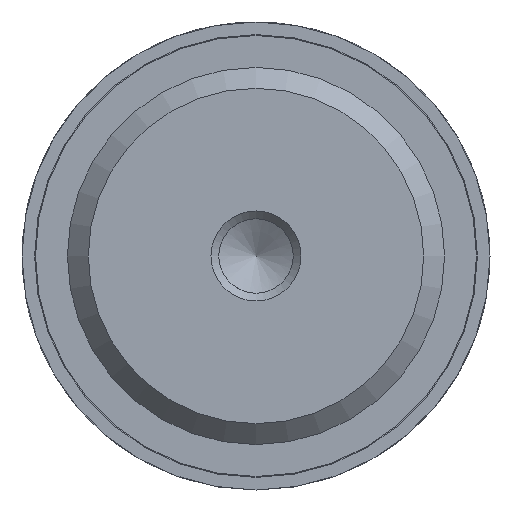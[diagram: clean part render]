
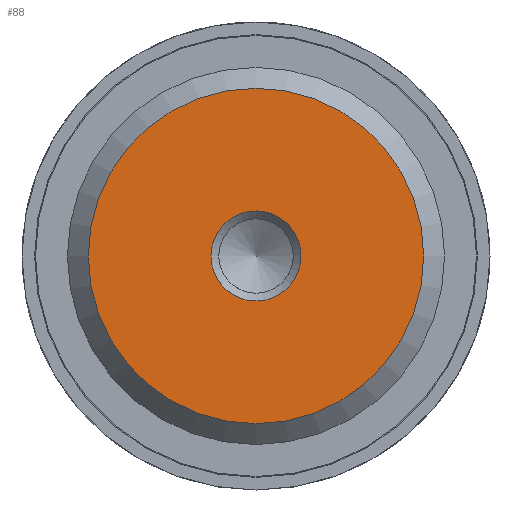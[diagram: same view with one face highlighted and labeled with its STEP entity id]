
A CAD part, front view. The second image highlights one B-rep face of the part: STEP entity #88.
In plain terms, the highlighted planar face has unit normal (0, -1, 0).
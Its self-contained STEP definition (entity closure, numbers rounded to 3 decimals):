
#88 = ADVANCED_FACE( '', ( #146, #147 ), #148, .F. );
#146 = FACE_BOUND( '', #237, .T. );
#147 = FACE_OUTER_BOUND( '', #238, .T. );
#148 = PLANE( '', #239 );
#237 = EDGE_LOOP( '', ( #372 ) );
#238 = EDGE_LOOP( '', ( #373 ) );
#239 = AXIS2_PLACEMENT_3D( '', #374, #375, #376 );
#372 = ORIENTED_EDGE( '', *, *, #524, .F. );
#373 = ORIENTED_EDGE( '', *, *, #525, .T. );
#374 = CARTESIAN_POINT( '', ( 9.316, 0., 0. ) );
#375 = DIRECTION( '', ( 0., 1., 0. ) );
#376 = DIRECTION( '', ( 0., 0., 1. ) );
#524 = EDGE_CURVE( '', #600, #600, #601, .T. );
#525 = EDGE_CURVE( '', #602, #602, #603, .T. );
#600 = VERTEX_POINT( '', #860 );
#601 = CIRCLE( '', #861, 2.5 );
#602 = VERTEX_POINT( '', #862 );
#603 = CIRCLE( '', #863, 9.316 );
#860 = CARTESIAN_POINT( '', ( 2.5, 0., 0. ) );
#861 = AXIS2_PLACEMENT_3D( '', #1009, #1010, #1011 );
#862 = CARTESIAN_POINT( '', ( 0., 0., -9.316 ) );
#863 = AXIS2_PLACEMENT_3D( '', #1012, #1013, #1014 );
#1009 = CARTESIAN_POINT( '', ( 0., 0., 0. ) );
#1010 = DIRECTION( '', ( 0., -1., 0. ) );
#1011 = DIRECTION( '', ( 1., 0., 0. ) );
#1012 = CARTESIAN_POINT( '', ( 0., 0., 0. ) );
#1013 = DIRECTION( '', ( 0., -1., 0. ) );
#1014 = DIRECTION( '', ( 0., 0., -1. ) );
